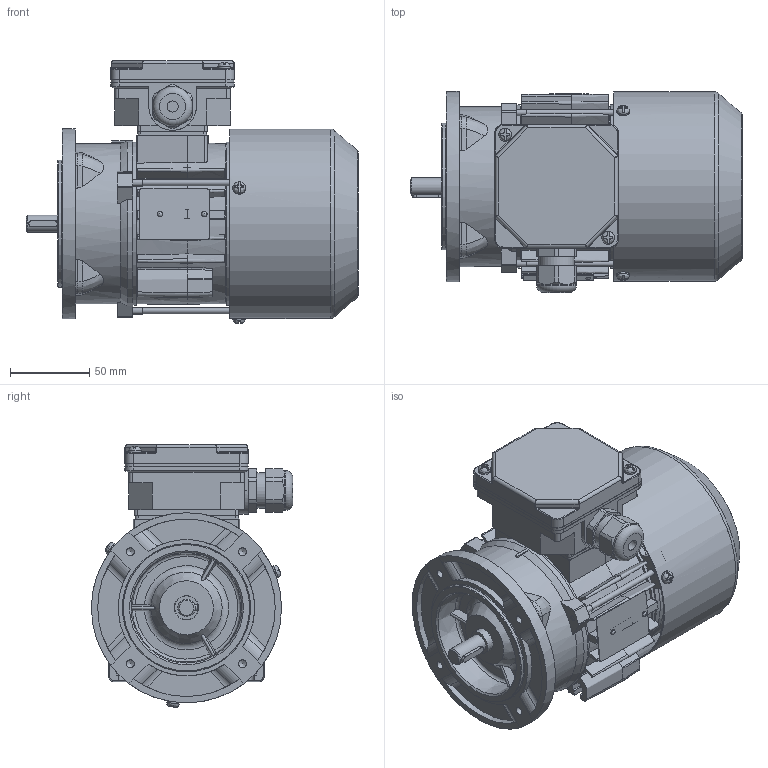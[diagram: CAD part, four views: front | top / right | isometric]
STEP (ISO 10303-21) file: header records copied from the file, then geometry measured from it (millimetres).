
FILE_DESCRIPTION( ( 'Unknown' ), '1' );
FILE_NAME( 'G:/Poczta Tk-1/STP/w.m.63/Sh63/SKh63-B1.stp', 'Unknown', ( 'K. Szlosek' ), ( 'BESEL S.A.' ), 'PSStep 17.0.49', 'Unknown', ' ' );
FILE_SCHEMA( ( 'AUTOMOTIVE_DESIGN { 1 0 10303 214 1 1 1 1 }' ) );
Length unit declared in the file: millimetre
Products named in the file (29): Assem1; K3-9973 Kadłub ze stojanem wykończonym Sh63-B; K3-5320 Tarcza łożyskowa P Sg63; Łożysko 6202; K3-9974 Wał Sh63-B; K2-1769 Przewietrznik Sg63; K3-5321 osłona przewietrznika Sg63; Wpust A4x4x18; Śruba ściągająca E_M4x80; K4-2320 Uszczelka nr 1 Sh71,80; K4-2820 Uszczelka nr 2 Sh71,80; K2-0859 Podstawa skrzynki 6-cio zaciskowej; K2-0860 Pokrywka skrzynki zaciskowej; Wkręt samogwintujący M4x8; Wkręt samogwintujący M4x16; Dławnica M20x1,5; Tabliczka znamionowa 32x44; Nitokołek A 2x6; K1-1111 Tarcza kołnierzowa w.m. 63 IMB14_1
Assembly tree (45 placements, depth 2):
  Assem1
    K3-9973 Kadłub ze stojanem wykończonym Sh63-B
    K3-5320 Tarcza łożyskowa P Sg63
    Łożysko 6202  x2
    Łożysko 6202  x2
    Łożysko 6202  x2
    Łożysko 6202  x2
    Łożysko 6202  x2
    Łożysko 6202  x2
    Łożysko 6202  x2
    Łożysko 6202  x2
    Łożysko 6202  x2
    Łożysko 6202  x2
    Łożysko 6202  x2
    K3-9974 Wał Sh63-B
    K2-1769 Przewietrznik Sg63
    K3-5321 osłona przewietrznika Sg63
    Wpust A4x4x18
    Śruba ściągająca E_M4x80  x3
    K4-2320 Uszczelka nr 1 Sh71,80
    K4-2820 Uszczelka nr 2 Sh71,80
    K2-0859 Podstawa skrzynki 6-cio zaciskowej
    K2-0860 Pokrywka skrzynki zaciskowej
    Wkręt samogwintujący M4x8  x3
    Wkręt samogwintujący M4x16  x2
    Dławnica M20x1,5
    Tabliczka znamionowa 32x44
    Nitokołek A 2x6  x2
    K1-1111 Tarcza kołnierzowa w.m. 63 IMB14_1
Bounding box: 209.5 x 127 x 165.9 mm (x, y, z)
Volume: 504460.4 mm3; surface area: 348954.9 mm2
Topology: 45 solids, 63 shells, 1904 faces, 5231 edges, 3390 vertices
Faces by surface type: plane 933, cylinder 555, cone 130, torus 126, bspline 121, sphere 39
Full cylindrical faces by diameter (mm): 2 x2, 2.4 x2, 3.3 x3, 3.7 x10, 4 x8, 4.5 x4, 4.8 x4, 5 x8, 7 x4, 8 x6, 11 x1, 12.9 x1, 13.1 x1, 13.5 x1, 15 x4, 15.4 x2, 18.376 x1, 18.38 x1, 19 x2, 19.5 x1, 20 x2, 20.1 x1, 21.52 x4, 22.3 x1, 25 x1, 28 x2, 28.48 x4, 31 x2, 35 x4, 72 x1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
Entity records: 83480 total; most frequent: CARTESIAN_POINT 26216, ORIENTED_EDGE 9016, DIRECTION 8592, EDGE_CURVE 4508, AXIS2_PLACEMENT_3D 3200, VERTEX_POINT 3065, LINE 2192, VECTOR 2192
